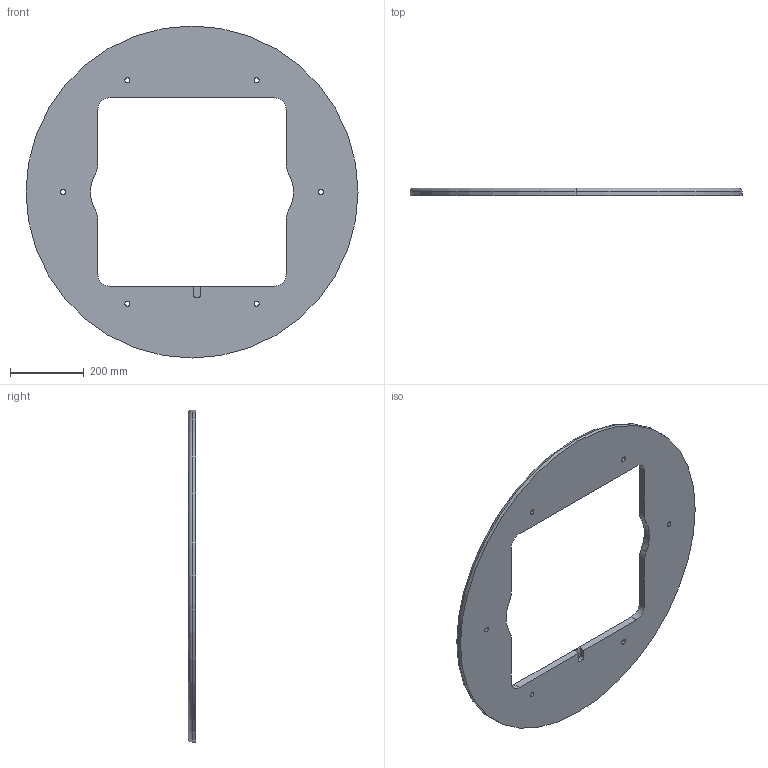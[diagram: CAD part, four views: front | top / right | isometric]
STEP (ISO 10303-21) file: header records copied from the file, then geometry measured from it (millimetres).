
FILE_DESCRIPTION (( 'STEP AP214' ), '1' );
FILE_NAME ('Ïëèòà ÌÄÔ.STEP', '2019-09-06T05:47:11', ( '' ), ( '' ), 'SwSTEP 2.0', 'SolidWorks 2016', '' );
FILE_SCHEMA (( 'AUTOMOTIVE_DESIGN' ));
Length unit declared in the file: millimetre
Products named in the file (1): Ïëèòà ÌÄÔ
Bounding box: 900 x 20 x 900 mm (x, y, z)
Volume: 7369552.1 mm3; surface area: 837021.5 mm2
Topology: 1 solids, 1 shells, 58 faces, 148 edges, 98 vertices
Faces by surface type: cylinder 38, plane 18, torus 2
Entity records: 1858 total; most frequent: DIRECTION 346, CARTESIAN_POINT 305, ORIENTED_EDGE 296, EDGE_CURVE 148, AXIS2_PLACEMENT_3D 139, VERTEX_POINT 98, CIRCLE 80, EDGE_LOOP 78
